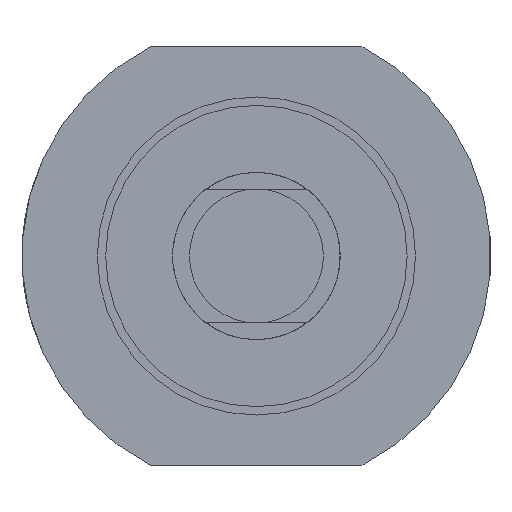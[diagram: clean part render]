
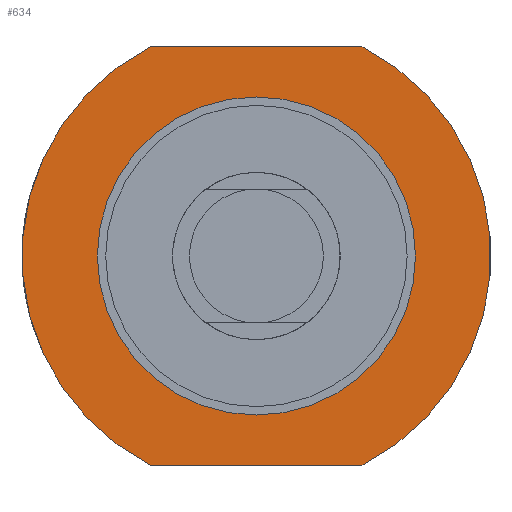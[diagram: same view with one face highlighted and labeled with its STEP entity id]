
A CAD part, left-side view. The second image highlights one B-rep face of the part: STEP entity #634.
In plain terms, the highlighted planar face has unit normal (-1, 0, 0).
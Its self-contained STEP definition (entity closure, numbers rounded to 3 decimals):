
#8 = CARTESIAN_POINT ( 'NONE',  ( 34., 6.305, 12.5 ) ) ;
#19 = AXIS2_PLACEMENT_3D ( 'NONE', #1129, #880, #182 ) ;
#155 = VERTEX_POINT ( 'NONE', #852 ) ;
#182 = DIRECTION ( 'NONE',  ( 0., 0., 1. ) ) ;
#197 = ORIENTED_EDGE ( 'NONE', *, *, #1184, .F. ) ;
#198 = VERTEX_POINT ( 'NONE', #1271 ) ;
#232 = CIRCLE ( 'NONE', #19, 9.5 ) ;
#254 = DIRECTION ( 'NONE',  ( -1., 0., 0. ) ) ;
#259 = VECTOR ( 'NONE', #404, 1000. ) ;
#266 = EDGE_CURVE ( 'NONE', #1144, #867, #232, .T. ) ;
#313 = EDGE_CURVE ( 'NONE', #861, #198, #1454, .T. ) ;
#334 = EDGE_LOOP ( 'NONE', ( #197, #1035 ) ) ;
#374 = FACE_BOUND ( 'NONE', #334, .T. ) ;
#379 = CARTESIAN_POINT ( 'NONE',  ( 34., 11.874, -12.5 ) ) ;
#388 = ORIENTED_EDGE ( 'NONE', *, *, #815, .F. ) ;
#404 = DIRECTION ( 'NONE',  ( 0., -1., 0. ) ) ;
#413 = DIRECTION ( 'NONE',  ( -1., 0., 0. ) ) ;
#429 = DIRECTION ( 'NONE',  ( 1., 0., 0. ) ) ;
#437 = DIRECTION ( 'NONE',  ( -1., 0., 0. ) ) ;
#450 = CIRCLE ( 'NONE', #1017, 14. ) ;
#609 = DIRECTION ( 'NONE',  ( 0., 1., 0. ) ) ;
#634 = ADVANCED_FACE ( 'NONE', ( #374, #1576 ), #875, .F. ) ;
#708 = EDGE_CURVE ( 'NONE', #861, #1564, #1304, .T. ) ;
#716 = VECTOR ( 'NONE', #609, 1000. ) ;
#745 = AXIS2_PLACEMENT_3D ( 'NONE', #960, #254, #1441 ) ;
#772 = CARTESIAN_POINT ( 'NONE',  ( 34., 0., 0. ) ) ;
#815 = EDGE_CURVE ( 'NONE', #155, #1564, #1131, .T. ) ;
#822 = DIRECTION ( 'NONE',  ( 0., 0., 1. ) ) ;
#852 = CARTESIAN_POINT ( 'NONE',  ( 34., -6.305, -12.5 ) ) ;
#861 = VERTEX_POINT ( 'NONE', #8 ) ;
#867 = VERTEX_POINT ( 'NONE', #1080 ) ;
#875 = PLANE ( 'NONE',  #1572 ) ;
#880 = DIRECTION ( 'NONE',  ( -1., 0., 0. ) ) ;
#960 = CARTESIAN_POINT ( 'NONE',  ( 34., 0., 0. ) ) ;
#987 = EDGE_LOOP ( 'NONE', ( #1679, #388, #1437, #1541 ) ) ;
#1017 = AXIS2_PLACEMENT_3D ( 'NONE', #772, #413, #1394 ) ;
#1019 = DIRECTION ( 'NONE',  ( 0., 0., -1. ) ) ;
#1035 = ORIENTED_EDGE ( 'NONE', *, *, #266, .F. ) ;
#1052 = CARTESIAN_POINT ( 'NONE',  ( 34., 6.305, -12.5 ) ) ;
#1080 = CARTESIAN_POINT ( 'NONE',  ( 34., 0., 9.5 ) ) ;
#1090 = CARTESIAN_POINT ( 'NONE',  ( 34., 0., -9.5 ) ) ;
#1129 = CARTESIAN_POINT ( 'NONE',  ( 34., 0., 0. ) ) ;
#1131 = LINE ( 'NONE', #379, #716 ) ;
#1144 = VERTEX_POINT ( 'NONE', #1090 ) ;
#1184 = EDGE_CURVE ( 'NONE', #867, #1144, #1187, .T. ) ;
#1187 = CIRCLE ( 'NONE', #745, 9.5 ) ;
#1271 = CARTESIAN_POINT ( 'NONE',  ( 34., -6.305, 12.5 ) ) ;
#1304 = CIRCLE ( 'NONE', #1719, 14. ) ;
#1330 = CARTESIAN_POINT ( 'NONE',  ( 34., 0., -14. ) ) ;
#1394 = DIRECTION ( 'NONE',  ( 0., 0., 1. ) ) ;
#1437 = ORIENTED_EDGE ( 'NONE', *, *, #1751, .T. ) ;
#1441 = DIRECTION ( 'NONE',  ( 0., 0., 1. ) ) ;
#1454 = LINE ( 'NONE', #1668, #259 ) ;
#1483 = CARTESIAN_POINT ( 'NONE',  ( 34., 0., 0. ) ) ;
#1541 = ORIENTED_EDGE ( 'NONE', *, *, #313, .F. ) ;
#1564 = VERTEX_POINT ( 'NONE', #1052 ) ;
#1572 = AXIS2_PLACEMENT_3D ( 'NONE', #1330, #429, #1019 ) ;
#1576 = FACE_OUTER_BOUND ( 'NONE', #987, .T. ) ;
#1668 = CARTESIAN_POINT ( 'NONE',  ( 34., 11.874, 12.5 ) ) ;
#1679 = ORIENTED_EDGE ( 'NONE', *, *, #708, .T. ) ;
#1719 = AXIS2_PLACEMENT_3D ( 'NONE', #1483, #437, #822 ) ;
#1751 = EDGE_CURVE ( 'NONE', #155, #198, #450, .T. ) ;
